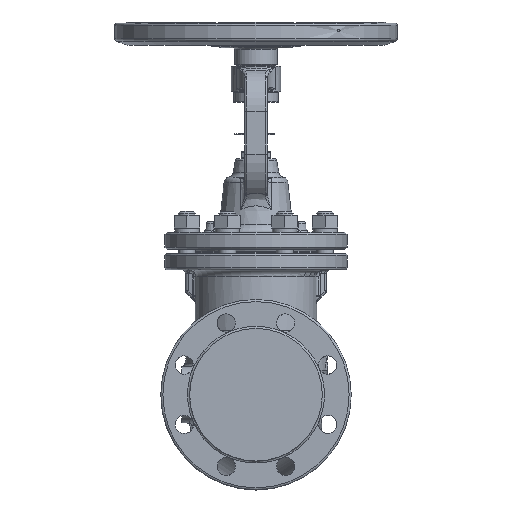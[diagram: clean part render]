
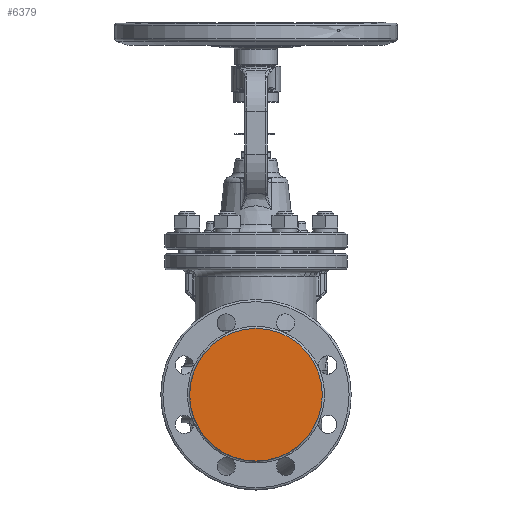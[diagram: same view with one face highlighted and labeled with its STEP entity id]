
A CAD part, front view. The second image highlights one B-rep face of the part: STEP entity #6379.
In plain terms, the highlighted planar face has unit normal (0, -1, 0).
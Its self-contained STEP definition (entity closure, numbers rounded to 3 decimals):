
#2840=FACE_OUTER_BOUND('',#8671,.T.);
#3441=PLANE('',#23134);
#6379=ADVANCED_FACE('',(#2840),#3441,.F.);
#8671=EDGE_LOOP('',(#14562));
#14562=ORIENTED_EDGE('',*,*,#19026,.F.);
#16306=VERTEX_POINT('',#40132);
#19026=EDGE_CURVE('',#16306,#16306,#20582,.T.);
#20582=CIRCLE('',#22610,94.);
#22610=AXIS2_PLACEMENT_3D('',#40131,#27219,#27220);
#23134=AXIS2_PLACEMENT_3D('',#45819,#28437,#28438);
#27219=DIRECTION('',(0.,1.,0.));
#27220=DIRECTION('',(-1.,0.,0.));
#28437=DIRECTION('',(0.,1.,0.));
#28438=DIRECTION('',(-1.,0.,0.));
#40131=CARTESIAN_POINT('',(0.,-200.,0.));
#40132=CARTESIAN_POINT('',(-94.,-200.,0.));
#45819=CARTESIAN_POINT('',(0.,-200.,0.));
